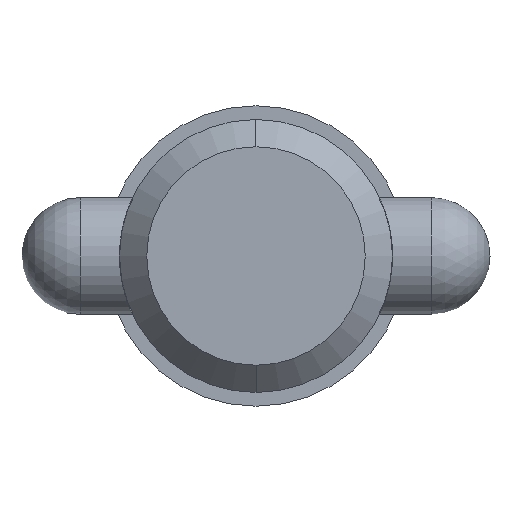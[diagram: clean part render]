
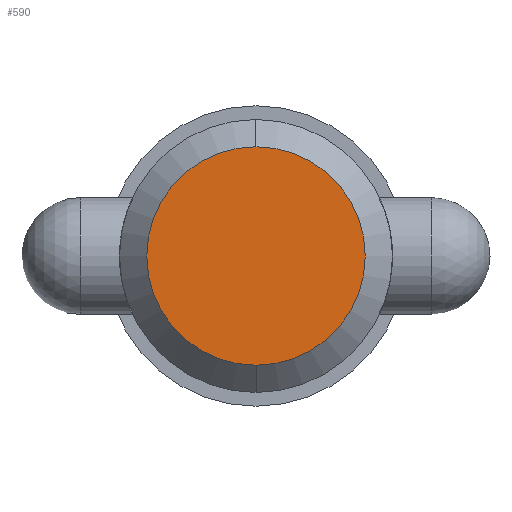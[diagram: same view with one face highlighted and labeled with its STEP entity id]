
A CAD part, left-side view. The second image highlights one B-rep face of the part: STEP entity #590.
In plain terms, the highlighted planar face has unit normal (-1, 0, 0).
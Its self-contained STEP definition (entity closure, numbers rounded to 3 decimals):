
#152 = CARTESIAN_POINT ( 'NONE',  ( 0., 0., 0. ) ) ;
#158 = DIRECTION ( 'NONE',  ( 1., 0., 0. ) ) ;
#205 = CARTESIAN_POINT ( 'NONE',  ( 0., 0., -8.892 ) ) ;
#374 = CARTESIAN_POINT ( 'NONE',  ( 0., 0., 8.892 ) ) ;
#396 = DIRECTION ( 'NONE',  ( 0., 0., -1. ) ) ;
#401 = CARTESIAN_POINT ( 'NONE',  ( 0., 0., 0. ) ) ;
#416 = DIRECTION ( 'NONE',  ( -1., 0., 0. ) ) ;
#420 = AXIS2_PLACEMENT_3D ( 'NONE', #824, #416, #506 ) ;
#491 = DIRECTION ( 'NONE',  ( 0., 0., -1. ) ) ;
#495 = PLANE ( 'NONE',  #420 ) ;
#506 = DIRECTION ( 'NONE',  ( 0., 0., 1. ) ) ;
#521 = CIRCLE ( 'NONE', #663, 8.892 ) ;
#524 = EDGE_CURVE ( 'NONE', #957, #962, #521, .T. ) ;
#567 = ORIENTED_EDGE ( 'NONE', *, *, #571, .F. ) ;
#571 = EDGE_CURVE ( 'NONE', #962, #957, #1056, .T. ) ;
#590 = ADVANCED_FACE ( 'NONE', ( #737 ), #495, .T. ) ;
#591 = AXIS2_PLACEMENT_3D ( 'NONE', #152, #158, #491 ) ;
#598 = ORIENTED_EDGE ( 'NONE', *, *, #524, .F. ) ;
#663 = AXIS2_PLACEMENT_3D ( 'NONE', #401, #726, #396 ) ;
#708 = EDGE_LOOP ( 'NONE', ( #598, #567 ) ) ;
#726 = DIRECTION ( 'NONE',  ( 1., 0., 0. ) ) ;
#737 = FACE_OUTER_BOUND ( 'NONE', #708, .T. ) ;
#824 = CARTESIAN_POINT ( 'NONE',  ( 0., 0., 0. ) ) ;
#957 = VERTEX_POINT ( 'NONE', #205 ) ;
#962 = VERTEX_POINT ( 'NONE', #374 ) ;
#1056 = CIRCLE ( 'NONE', #591, 8.892 ) ;
